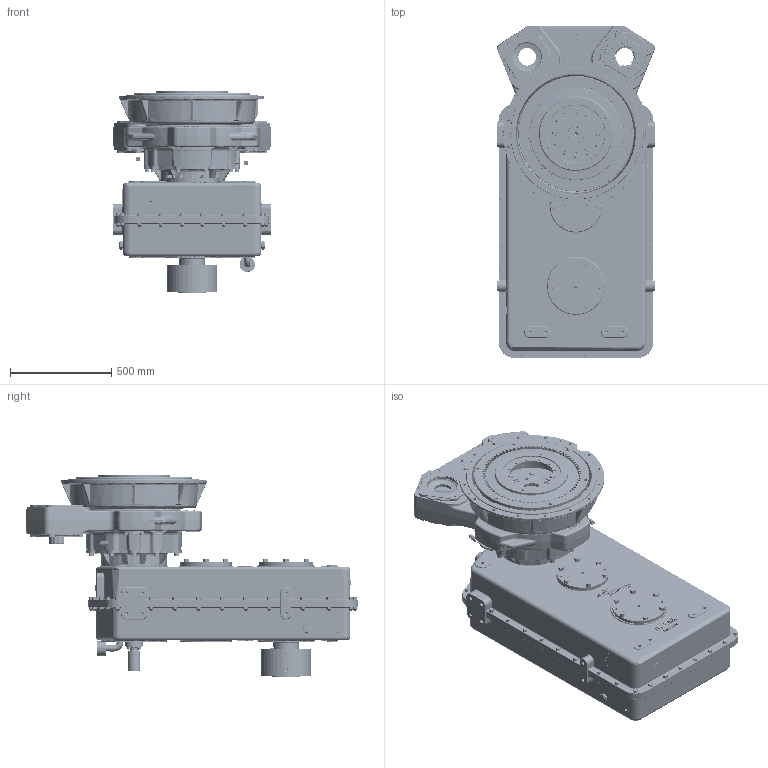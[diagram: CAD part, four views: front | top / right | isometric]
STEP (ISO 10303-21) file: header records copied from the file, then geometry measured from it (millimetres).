
FILE_DESCRIPTION (( 'STEP AP214' ), '1' );
FILE_NAME ('D226E714002.STEP', '2017-09-12T20:18:24', ( 'MikeMihajlovic' ), ( 'Microsoft' ), 'SwSTEP 2.0', 'SolidWorks 2017', '' );
FILE_SCHEMA (( 'AUTOMOTIVE_DESIGN' ));
Length unit declared in the file: inch
Products named in the file (157): NP266409-1; HHD08-10C12-XX_11-1; D204013; CHFOB-012-002-1; HPTOFX-02-100-1; D226013; HDPXX-08X12-XX_1-1; HSH08-08C10-XX_1; PPSKG_75-14; HHD08-10C12-XX_10-1; DWL_50X1_25; CHFOB-012-002; HPTOFX-01-100; SHK23205; HDPXX-08X12-XX-1; HSH08-08C10-XX; PPSKM_75-14; HHD08-10C12-XX_1-1; FH-CHYFA-001-D; CECSP-003-D_1; HPTOFX-01-100-1; SHK23207; HBSCR-20MXX-XX-1; HSH08-08C10-XX-1; SG1_00NPT-01; HHD08-10C12-XX-1; CL-HPTO15; CECSP-003-D_1-1; SHK23220; CHYSP-002_1; PPSKG1_00-11_5; HFS08-10C12-XX_9-1; CL-HPTO15_CLUTCH PLATE; D226001C; HOWXX-06XXX-XX_1; SHK23005; HHD08-08C06-XX_3-3; HPTOFX-10-100; AVBF-16; HFS08-10C12-XX_8-1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
Assembly tree (339 placements, depth 4):
  D226E714002
    D226001C
    CL-HPTO15
    FH-CHYFA-001-D
    DWL_50X1_25  x2
    D204013
    SHCS_25-20X_50  x2
    BCN594_BCP592A_ASM
      BCN594
      BCP592A
    D226003
    D226004
    D226016
    D226005
    D226001B
    SHK22620
    SHK22607  x3
    SHK22605  x3
    SHK23020
    SHK23007  x3
    SHK23005  x3
    SHK23220
    SHK23207  x3
    SHK23205  x3
    D226013
    D226012
    D226010
    BI-3_312_ASM
      BI-3_312-STATOR
      BI-3_312-ROTOR
    LWZ_63  x18
    HHCSZ_63-11X1_75  x18
    LWZ_50  x34
    HNZ_50-13  x34
    HHCSZ_50-13X2_25  x34
    OS5_125X6_250-2
    PPSKG_38-18  x3
    D226021
    STEL1_00NPT90
    AVBF-16
    PPSKG1_00-11_5  x3
    SG1_00NPT-01  x2
    PPSKM_75-14
    PPSKG_75-14
    NP266409-1
    DS90081A106  x2
    OS3_625X4_625-2
    THST_31X1_25  x6
    RU2620-000-157
    LNNZ_31-24  x6
    D226002A
    SHCS_63-11X1_75  x8
    D226022
    SSCP_75-10X1_25  x4
    DWL_63X1_50  x2
    SHCS_63-11X1_50  x10
    hpto15fx-91-100
      CECSP-003-D
        CECSP-003-D
        CECSP-003-D-1
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Bounding box: 781.05 x 1639.7 x 998.69 mm (x, y, z)
Volume: 23382601.3 mm3; surface area: 16222977.6 mm2
Topology: 216 solids, 607 shells, 18802 faces, 49700 edges, 31748 vertices
Faces by surface type: plane 8047, cylinder 6221, bspline 3131, cone 1403
Entity records: 733048 total; most frequent: CARTESIAN_POINT 349571, ORIENTED_EDGE 81489, DIRECTION 68159, EDGE_CURVE 41284, VERTEX_POINT 26647, AXIS2_PLACEMENT_3D 23189, VECTOR 21781, LINE 21781
